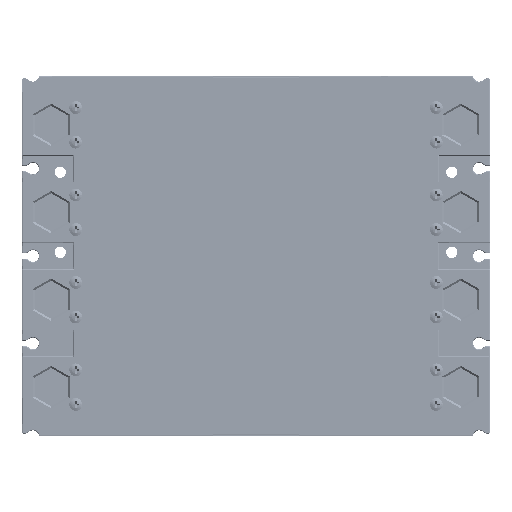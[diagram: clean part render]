
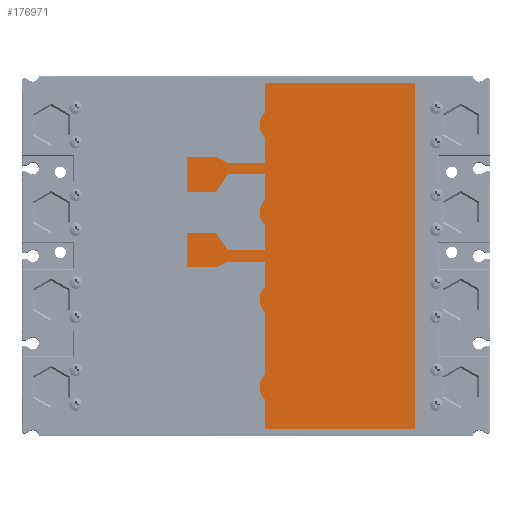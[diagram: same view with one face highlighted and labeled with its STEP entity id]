
A CAD part, front view. The second image highlights one B-rep face of the part: STEP entity #176971.
In plain terms, the highlighted planar face has unit normal (0, -1, 0) as drawn and (0, 0, -1) by its records, which use the part's own axes.
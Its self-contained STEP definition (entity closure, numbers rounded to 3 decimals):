
#176452=DIRECTION('',(0.,1.,0.));
#176453=VECTOR('',#176452,82.5);
#176454=CARTESIAN_POINT('',(119.,0.,0.));
#176455=LINE('',#176454,#176453);
#176456=DIRECTION('',(-1.,0.,0.));
#176457=VECTOR('',#176456,16.072);
#176458=CARTESIAN_POINT('',(119.,82.5,0.));
#176459=LINE('',#176458,#176457);
#176460=CARTESIAN_POINT('',(96.,76.,0.));
#176461=DIRECTION('',(0.,0.,1.));
#176462=DIRECTION('',(0.729,0.684,0.));
#176463=AXIS2_PLACEMENT_3D('',#176460,#176461,#176462);
#176465=DIRECTION('',(-1.,0.,0.));
#176466=VECTOR('',#176465,34.144);
#176467=CARTESIAN_POINT('',(89.072,82.5,0.));
#176468=LINE('',#176467,#176466);
#176469=CARTESIAN_POINT('',(48.,76.,0.));
#176470=DIRECTION('',(0.,0.,1.));
#176471=DIRECTION('',(0.729,0.684,0.));
#176472=AXIS2_PLACEMENT_3D('',#176469,#176470,#176471);
#176474=DIRECTION('',(-1.,0.,0.));
#176475=VECTOR('',#176474,13.972);
#176476=CARTESIAN_POINT('',(41.072,82.5,0.));
#176477=LINE('',#176476,#176475);
#176478=DIRECTION('',(0.,1.,0.));
#176479=VECTOR('',#176478,20.5);
#176480=CARTESIAN_POINT('',(27.1,82.5,0.));
#176481=LINE('',#176480,#176479);
#176482=DIRECTION('',(0.436,0.9,0.));
#176483=VECTOR('',#176482,7.223);
#176484=CARTESIAN_POINT('',(27.1,103.,0.));
#176485=LINE('',#176484,#176483);
#176486=DIRECTION('',(0.,1.,0.));
#176487=VECTOR('',#176486,16.);
#176488=CARTESIAN_POINT('',(30.25,109.5,0.));
#176489=LINE('',#176488,#176487);
#176490=DIRECTION('',(-1.,0.,0.));
#176491=VECTOR('',#176490,19.);
#176492=CARTESIAN_POINT('',(30.25,125.5,0.));
#176493=LINE('',#176492,#176491);
#176494=DIRECTION('',(0.,-1.,0.));
#176495=VECTOR('',#176494,16.);
#176496=CARTESIAN_POINT('',(11.25,125.5,0.));
#176497=LINE('',#176496,#176495);
#176498=DIRECTION('',(0.829,-0.559,0.));
#176499=VECTOR('',#176498,11.635);
#176500=CARTESIAN_POINT('',(11.25,109.5,0.));
#176501=LINE('',#176500,#176499);
#176502=DIRECTION('',(0.,-1.,0.));
#176503=VECTOR('',#176502,20.5);
#176504=CARTESIAN_POINT('',(20.9,103.,0.));
#176505=LINE('',#176504,#176503);
#176506=DIRECTION('',(-1.,0.,0.));
#176507=VECTOR('',#176506,13.972);
#176508=CARTESIAN_POINT('',(20.9,82.5,0.));
#176509=LINE('',#176508,#176507);
#176510=CARTESIAN_POINT('',(0.,76.,0.));
#176511=DIRECTION('',(0.,0.,1.));
#176512=DIRECTION('',(0.729,0.684,0.));
#176513=AXIS2_PLACEMENT_3D('',#176510,#176511,#176512);
#176515=DIRECTION('',(-1.,0.,0.));
#176516=VECTOR('',#176515,13.972);
#176517=CARTESIAN_POINT('',(-6.928,82.5,0.));
#176518=LINE('',#176517,#176516);
#176519=DIRECTION('',(0.,1.,0.));
#176520=VECTOR('',#176519,20.5);
#176521=CARTESIAN_POINT('',(-20.9,82.5,0.));
#176522=LINE('',#176521,#176520);
#176523=DIRECTION('',(0.829,0.559,0.));
#176524=VECTOR('',#176523,11.635);
#176525=CARTESIAN_POINT('',(-20.9,103.,0.));
#176526=LINE('',#176525,#176524);
#176527=DIRECTION('',(0.,1.,0.));
#176528=VECTOR('',#176527,16.);
#176529=CARTESIAN_POINT('',(-11.25,109.5,0.));
#176530=LINE('',#176529,#176528);
#176531=DIRECTION('',(-1.,0.,0.));
#176532=VECTOR('',#176531,19.);
#176533=CARTESIAN_POINT('',(-11.25,125.5,0.));
#176534=LINE('',#176533,#176532);
#176535=DIRECTION('',(0.,-1.,0.));
#176536=VECTOR('',#176535,16.);
#176537=CARTESIAN_POINT('',(-30.25,125.5,0.));
#176538=LINE('',#176537,#176536);
#176539=DIRECTION('',(0.436,-0.9,0.));
#176540=VECTOR('',#176539,7.223);
#176541=CARTESIAN_POINT('',(-30.25,109.5,0.));
#176542=LINE('',#176541,#176540);
#176543=DIRECTION('',(0.,-1.,0.));
#176544=VECTOR('',#176543,20.5);
#176545=CARTESIAN_POINT('',(-27.1,103.,0.));
#176546=LINE('',#176545,#176544);
#176547=DIRECTION('',(-1.,0.,0.));
#176548=VECTOR('',#176547,13.972);
#176549=CARTESIAN_POINT('',(-27.1,82.5,0.));
#176550=LINE('',#176549,#176548);
#176551=CARTESIAN_POINT('',(-48.,76.,0.));
#176552=DIRECTION('',(0.,0.,1.));
#176553=DIRECTION('',(0.729,0.684,0.));
#176554=AXIS2_PLACEMENT_3D('',#176551,#176552,#176553);
#176556=DIRECTION('',(-1.,0.,0.));
#176557=VECTOR('',#176556,16.072);
#176558=CARTESIAN_POINT('',(-54.928,82.5,0.));
#176559=LINE('',#176558,#176557);
#176560=DIRECTION('',(0.,-1.,0.));
#176561=VECTOR('',#176560,82.5);
#176562=CARTESIAN_POINT('',(-71.,82.5,0.));
#176563=LINE('',#176562,#176561);
#176564=DIRECTION('',(-1.,0.,0.));
#176565=VECTOR('',#176564,190.);
#176566=CARTESIAN_POINT('',(119.,0.,0.));
#176567=LINE('',#176566,#176565);
#176796=CARTESIAN_POINT('',(-20.9,103.,0.));
#176797=CARTESIAN_POINT('',(-11.25,109.5,0.));
#176798=VERTEX_POINT('',#176796);
#176799=VERTEX_POINT('',#176797);
#176800=CARTESIAN_POINT('',(-11.25,125.5,0.));
#176801=VERTEX_POINT('',#176800);
#176802=CARTESIAN_POINT('',(-30.25,125.5,0.));
#176803=VERTEX_POINT('',#176802);
#176804=CARTESIAN_POINT('',(-30.25,109.5,0.));
#176805=VERTEX_POINT('',#176804);
#176806=CARTESIAN_POINT('',(-27.1,103.,0.));
#176807=VERTEX_POINT('',#176806);
#176808=CARTESIAN_POINT('',(27.1,103.,0.));
#176809=CARTESIAN_POINT('',(30.25,109.5,0.));
#176810=VERTEX_POINT('',#176808);
#176811=VERTEX_POINT('',#176809);
#176812=CARTESIAN_POINT('',(30.25,125.5,0.));
#176813=VERTEX_POINT('',#176812);
#176814=CARTESIAN_POINT('',(11.25,125.5,0.));
#176815=VERTEX_POINT('',#176814);
#176816=CARTESIAN_POINT('',(11.25,109.5,0.));
#176817=VERTEX_POINT('',#176816);
#176818=CARTESIAN_POINT('',(20.9,103.,0.));
#176819=VERTEX_POINT('',#176818);
#176844=CARTESIAN_POINT('',(119.,0.,0.));
#176845=CARTESIAN_POINT('',(119.,82.5,0.));
#176846=VERTEX_POINT('',#176844);
#176847=VERTEX_POINT('',#176845);
#176848=CARTESIAN_POINT('',(102.928,82.5,0.));
#176849=VERTEX_POINT('',#176848);
#176850=CARTESIAN_POINT('',(54.928,82.5,0.));
#176851=CARTESIAN_POINT('',(41.072,82.5,0.));
#176852=VERTEX_POINT('',#176850);
#176853=VERTEX_POINT('',#176851);
#176854=CARTESIAN_POINT('',(6.928,82.5,0.));
#176855=CARTESIAN_POINT('',(-6.928,82.5,0.));
#176856=VERTEX_POINT('',#176854);
#176857=VERTEX_POINT('',#176855);
#176858=CARTESIAN_POINT('',(-41.072,82.5,0.));
#176859=CARTESIAN_POINT('',(-54.928,82.5,0.));
#176860=VERTEX_POINT('',#176858);
#176861=VERTEX_POINT('',#176859);
#176862=CARTESIAN_POINT('',(-71.,82.5,0.));
#176863=VERTEX_POINT('',#176862);
#176885=CARTESIAN_POINT('',(-20.9,82.5,0.));
#176887=VERTEX_POINT('',#176885);
#176889=CARTESIAN_POINT('',(-27.1,82.5,0.));
#176891=VERTEX_POINT('',#176889);
#176893=CARTESIAN_POINT('',(27.1,82.5,0.));
#176895=VERTEX_POINT('',#176893);
#176897=CARTESIAN_POINT('',(20.9,82.5,0.));
#176899=VERTEX_POINT('',#176897);
#176902=CARTESIAN_POINT('',(-71.,0.,0.));
#176903=VERTEX_POINT('',#176902);
#176904=CARTESIAN_POINT('',(89.072,82.5,0.));
#176905=VERTEX_POINT('',#176904);
#176908=CARTESIAN_POINT('',(0.,0.,0.));
#176909=DIRECTION('',(0.,0.,1.));
#176910=DIRECTION('',(1.,0.,0.));
#176911=AXIS2_PLACEMENT_3D('',#176908,#176909,#176910);
#176912=PLANE('',#176911);
#176914=ORIENTED_EDGE('',*,*,#176913,.F.);
#176916=ORIENTED_EDGE('',*,*,#176915,.T.);
#176918=ORIENTED_EDGE('',*,*,#176917,.T.);
#176920=ORIENTED_EDGE('',*,*,#176919,.T.);
#176922=ORIENTED_EDGE('',*,*,#176921,.T.);
#176924=ORIENTED_EDGE('',*,*,#176923,.T.);
#176926=ORIENTED_EDGE('',*,*,#176925,.T.);
#176928=ORIENTED_EDGE('',*,*,#176927,.T.);
#176930=ORIENTED_EDGE('',*,*,#176929,.T.);
#176932=ORIENTED_EDGE('',*,*,#176931,.T.);
#176934=ORIENTED_EDGE('',*,*,#176933,.T.);
#176936=ORIENTED_EDGE('',*,*,#176935,.T.);
#176938=ORIENTED_EDGE('',*,*,#176937,.T.);
#176940=ORIENTED_EDGE('',*,*,#176939,.T.);
#176942=ORIENTED_EDGE('',*,*,#176941,.T.);
#176944=ORIENTED_EDGE('',*,*,#176943,.T.);
#176946=ORIENTED_EDGE('',*,*,#176945,.T.);
#176948=ORIENTED_EDGE('',*,*,#176947,.T.);
#176950=ORIENTED_EDGE('',*,*,#176949,.T.);
#176952=ORIENTED_EDGE('',*,*,#176951,.T.);
#176954=ORIENTED_EDGE('',*,*,#176953,.T.);
#176956=ORIENTED_EDGE('',*,*,#176955,.T.);
#176958=ORIENTED_EDGE('',*,*,#176957,.T.);
#176960=ORIENTED_EDGE('',*,*,#176959,.T.);
#176962=ORIENTED_EDGE('',*,*,#176961,.T.);
#176964=ORIENTED_EDGE('',*,*,#176963,.T.);
#176966=ORIENTED_EDGE('',*,*,#176965,.T.);
#176968=ORIENTED_EDGE('',*,*,#176967,.T.);
#176969=EDGE_LOOP('',(#176914,#176916,#176918,#176920,#176922,#176924,#176926,
#176928,#176930,#176932,#176934,#176936,#176938,#176940,#176942,#176944,#176946,
#176948,#176950,#176952,#176954,#176956,#176958,#176960,#176962,#176964,#176966,
#176968));
#176970=FACE_OUTER_BOUND('',#176969,.F.);
#176971=ADVANCED_FACE('',(#176970),#176912,.F.);
#176464=CIRCLE('',#176463,9.5);
#176473=CIRCLE('',#176472,9.5);
#176514=CIRCLE('',#176513,9.5);
#176555=CIRCLE('',#176554,9.5);
#176913=EDGE_CURVE('',#176846,#176903,#176567,.T.);
#176915=EDGE_CURVE('',#176846,#176847,#176455,.T.);
#176917=EDGE_CURVE('',#176847,#176849,#176459,.T.);
#176919=EDGE_CURVE('',#176849,#176905,#176464,.T.);
#176921=EDGE_CURVE('',#176905,#176852,#176468,.T.);
#176923=EDGE_CURVE('',#176852,#176853,#176473,.T.);
#176925=EDGE_CURVE('',#176853,#176895,#176477,.T.);
#176927=EDGE_CURVE('',#176895,#176810,#176481,.T.);
#176929=EDGE_CURVE('',#176810,#176811,#176485,.T.);
#176931=EDGE_CURVE('',#176811,#176813,#176489,.T.);
#176933=EDGE_CURVE('',#176813,#176815,#176493,.T.);
#176935=EDGE_CURVE('',#176815,#176817,#176497,.T.);
#176937=EDGE_CURVE('',#176817,#176819,#176501,.T.);
#176939=EDGE_CURVE('',#176819,#176899,#176505,.T.);
#176941=EDGE_CURVE('',#176899,#176856,#176509,.T.);
#176943=EDGE_CURVE('',#176856,#176857,#176514,.T.);
#176945=EDGE_CURVE('',#176857,#176887,#176518,.T.);
#176947=EDGE_CURVE('',#176887,#176798,#176522,.T.);
#176949=EDGE_CURVE('',#176798,#176799,#176526,.T.);
#176951=EDGE_CURVE('',#176799,#176801,#176530,.T.);
#176953=EDGE_CURVE('',#176801,#176803,#176534,.T.);
#176955=EDGE_CURVE('',#176803,#176805,#176538,.T.);
#176957=EDGE_CURVE('',#176805,#176807,#176542,.T.);
#176959=EDGE_CURVE('',#176807,#176891,#176546,.T.);
#176961=EDGE_CURVE('',#176891,#176860,#176550,.T.);
#176963=EDGE_CURVE('',#176860,#176861,#176555,.T.);
#176965=EDGE_CURVE('',#176861,#176863,#176559,.T.);
#176967=EDGE_CURVE('',#176863,#176903,#176563,.T.);
